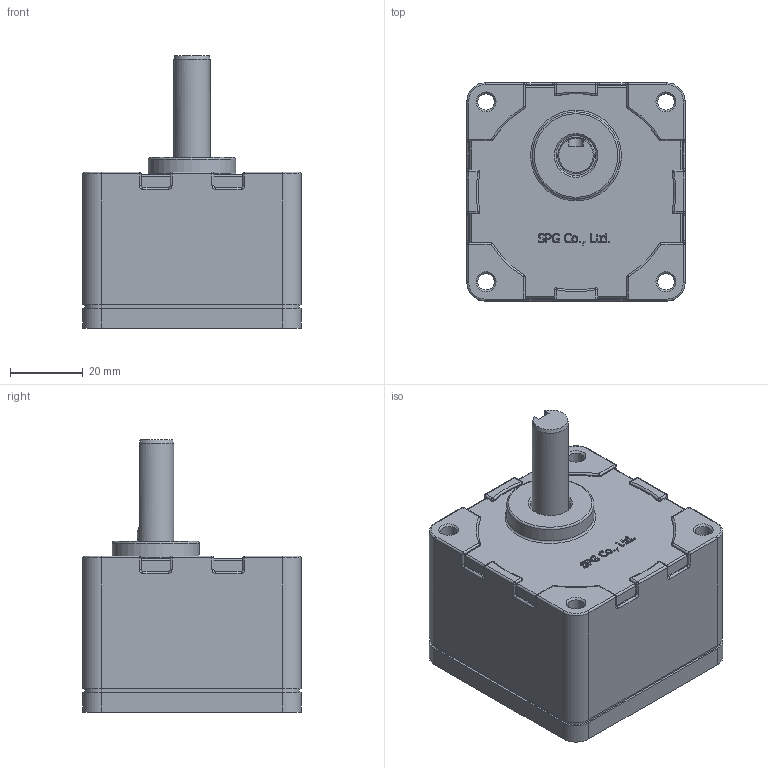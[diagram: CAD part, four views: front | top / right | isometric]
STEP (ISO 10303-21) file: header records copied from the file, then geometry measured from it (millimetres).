
FILE_DESCRIPTION((''),'2;1');
FILE_NAME('C:\Documents and Settings\Administrator\바탕 화면\BLDC 3D FILE\GEAR HEAD ASS''Y\60\XTG6200K.stp','2014-06-19T12:44:05',('kdhkdh'),(''),'Autodesk Inventor 2011','Autodesk Inventor 2011','');
FILE_SCHEMA(('AUTOMOTIVE_DESIGN { 1 0 10303 214 1 1 1 1 }'));
Length unit declared in the file: millimetre
Products named in the file (1): 부품6
Bounding box: 60 x 60 x 75 mm (x, y, z)
Volume: 146693.5 mm3; surface area: 22428.1 mm2
Topology: 1 solids, 1 shells, 449 faces, 1130 edges, 686 vertices
Faces by surface type: plane 152, cylinder 140, bspline 81, sphere 32, torus 30, cone 14
Full cylindrical faces by diameter (mm): 2.6 x6, 2.8 x4, 4.5 x4, 5 x8, 5.7 x1, 10 x1, 11 x1, 24 x1, 54 x1
Entity records: 13309 total; most frequent: CARTESIAN_POINT 3325, ORIENTED_EDGE 2072, DIRECTION 1941, EDGE_CURVE 1036, AXIS2_PLACEMENT_3D 704, VERTEX_POINT 666, EDGE_LOOP 534, VECTOR 533
